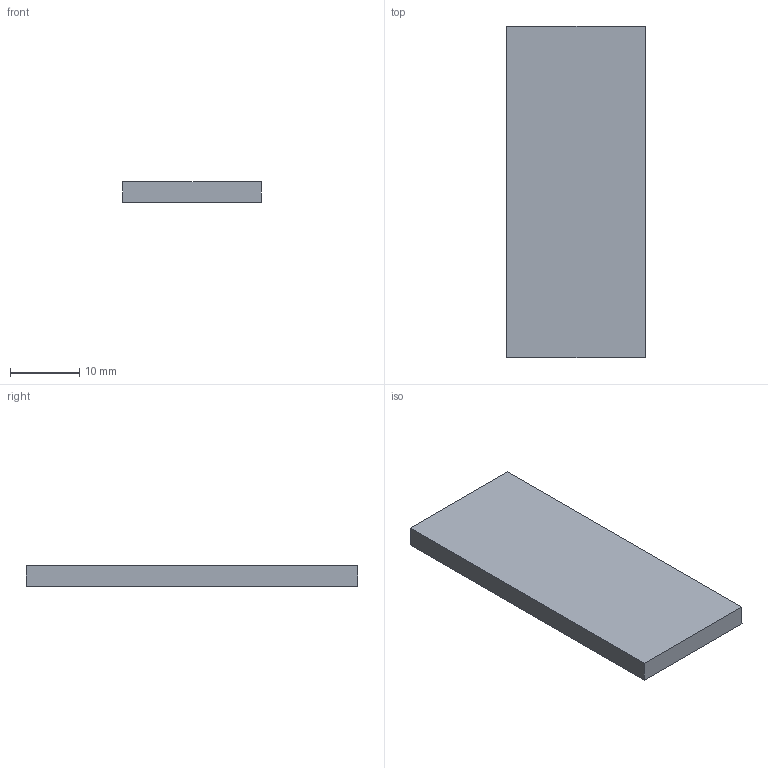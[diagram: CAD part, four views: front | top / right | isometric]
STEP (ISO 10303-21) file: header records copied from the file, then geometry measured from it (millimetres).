
FILE_DESCRIPTION(/* description */ (''),/* implementation_level */ '2;1');
FILE_NAME(/* name */ 'Pos108-Plaatwerk D= 3-S235JRG2-4st',/* time_stamp */ '2024-08-06T13:49:48+02:00',/* author */ (''),/* organization */ (''),/* preprocessor_version */ 'ST-DEVELOPER v16.5',/* originating_system */ 'HiCAD 2024 2901.2 Build 361',/* authorisation */ '');
FILE_SCHEMA (('AUTOMOTIVE_DESIGN { 1 0 10303 214 1 1 1 1 }'));
Length unit declared in the file: millimetre
Products named in the file (1): Pos108-Plaatwerk D= 3-S235JRG2-4st
Bounding box: 20 x 48 x 3 mm (x, y, z)
Volume: 2880 mm3; surface area: 2328 mm2
Topology: 1 solids, 1 shells, 6 faces, 12 edges, 8 vertices
Faces by surface type: plane 6
Entity records: 294 total; most frequent: CARTESIAN_POINT 26, PRESENTATION_STYLE_ASSIGNMENT 25, COLOUR_RGB 25, DRAUGHTING_PRE_DEFINED_CURVE_FONT 24, CURVE_STYLE 24, OVER_RIDING_STYLED_ITEM 24, ORIENTED_EDGE 24, DIRECTION 24
